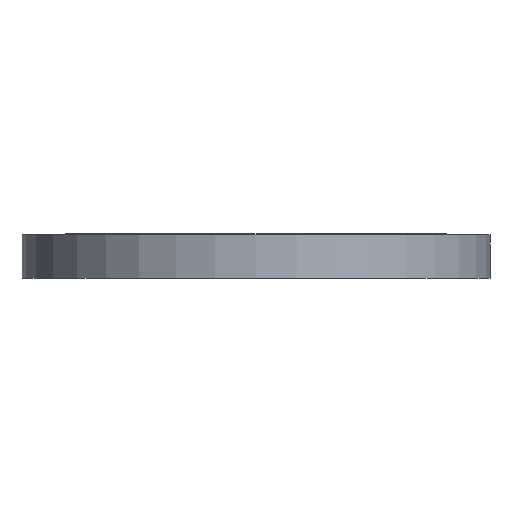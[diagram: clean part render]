
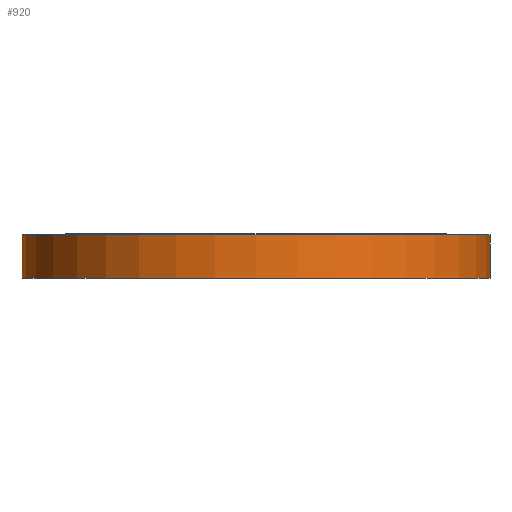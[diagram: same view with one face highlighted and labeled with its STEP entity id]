
A CAD part, front view. The second image highlights one B-rep face of the part: STEP entity #920.
In plain terms, the highlighted cylindrical face has radius 377.5 mm (diameter 755 mm), a partial arc.
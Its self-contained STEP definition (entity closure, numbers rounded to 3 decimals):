
#27 = EDGE_CURVE ( 'NONE', #988, #561, #41, .T. ) ;
#41 = CIRCLE ( 'NONE', #94, 377.5 ) ;
#68 = CARTESIAN_POINT ( 'NONE',  ( -377.5, 0., -72. ) ) ;
#89 = EDGE_CURVE ( 'NONE', #631, #988, #415, .T. ) ;
#94 = AXIS2_PLACEMENT_3D ( 'NONE', #478, #477, #474 ) ;
#100 = DIRECTION ( 'NONE',  ( -1., 0., 0. ) ) ;
#101 = DIRECTION ( 'NONE',  ( 0., 0., -1. ) ) ;
#103 = CARTESIAN_POINT ( 'NONE',  ( 0., 0., -72. ) ) ;
#153 = LINE ( 'NONE', #959, #1732 ) ;
#163 = CARTESIAN_POINT ( 'NONE',  ( 377.5, 0., -72. ) ) ;
#200 = CARTESIAN_POINT ( 'NONE',  ( -377.5, 0., -2. ) ) ;
#202 = VECTOR ( 'NONE', #413, 1000. ) ;
#205 = FACE_OUTER_BOUND ( 'NONE', #523, .T. ) ;
#346 = CARTESIAN_POINT ( 'NONE',  ( 0., 0., -150. ) ) ;
#413 = DIRECTION ( 'NONE',  ( 0., 0., 1. ) ) ;
#414 = CARTESIAN_POINT ( 'NONE',  ( 377.5, 0., -150. ) ) ;
#415 = LINE ( 'NONE', #414, #202 ) ;
#474 = DIRECTION ( 'NONE',  ( -1., 0., 0. ) ) ;
#477 = DIRECTION ( 'NONE',  ( 0., 0., -1. ) ) ;
#478 = CARTESIAN_POINT ( 'NONE',  ( 0., 0., -2. ) ) ;
#490 = CYLINDRICAL_SURFACE ( 'NONE', #1538, 377.5 ) ;
#510 = CARTESIAN_POINT ( 'NONE',  ( 377.5, 0., -2. ) ) ;
#523 = EDGE_LOOP ( 'NONE', ( #1335, #1337, #1338, #1341 ) ) ;
#561 = VERTEX_POINT ( 'NONE', #200 ) ;
#631 = VERTEX_POINT ( 'NONE', #163 ) ;
#695 = EDGE_CURVE ( 'NONE', #631, #1426, #1360, .T. ) ;
#920 = ADVANCED_FACE ( 'NONE', ( #205 ), #490, .T. ) ;
#959 = CARTESIAN_POINT ( 'NONE',  ( -377.5, 0., -150. ) ) ;
#988 = VERTEX_POINT ( 'NONE', #510 ) ;
#1108 = EDGE_CURVE ( 'NONE', #1426, #561, #153, .T. ) ;
#1335 = ORIENTED_EDGE ( 'NONE', *, *, #1108, .F. ) ;
#1337 = ORIENTED_EDGE ( 'NONE', *, *, #695, .F. ) ;
#1338 = ORIENTED_EDGE ( 'NONE', *, *, #89, .T. ) ;
#1341 = ORIENTED_EDGE ( 'NONE', *, *, #27, .T. ) ;
#1360 = CIRCLE ( 'NONE', #1361, 377.5 ) ;
#1361 = AXIS2_PLACEMENT_3D ( 'NONE', #103, #101, #100 ) ;
#1426 = VERTEX_POINT ( 'NONE', #68 ) ;
#1520 = DIRECTION ( 'NONE',  ( 0., 0., 1. ) ) ;
#1538 = AXIS2_PLACEMENT_3D ( 'NONE', #346, #1830, #1738 ) ;
#1732 = VECTOR ( 'NONE', #1520, 1000. ) ;
#1738 = DIRECTION ( 'NONE',  ( 1., 0., 0. ) ) ;
#1830 = DIRECTION ( 'NONE',  ( 0., 0., 1. ) ) ;
